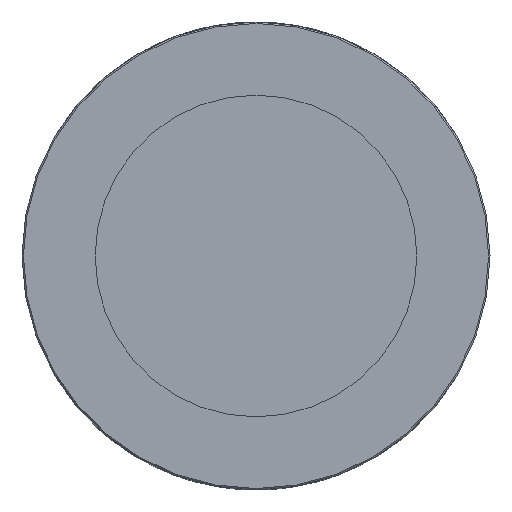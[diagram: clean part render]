
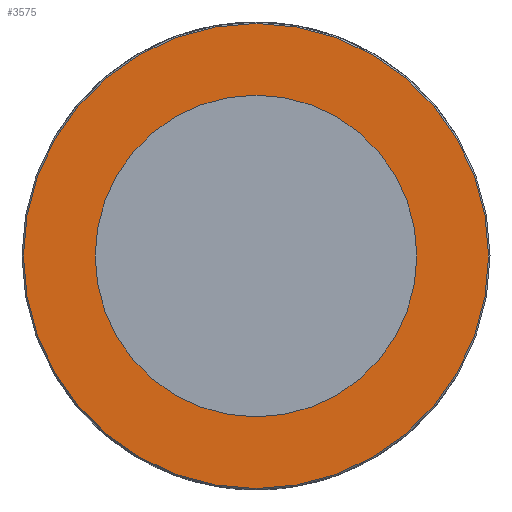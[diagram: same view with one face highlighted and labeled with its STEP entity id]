
A CAD part, left-side view. The second image highlights one B-rep face of the part: STEP entity #3575.
In plain terms, the highlighted planar face has unit normal (-1, 0, 0).
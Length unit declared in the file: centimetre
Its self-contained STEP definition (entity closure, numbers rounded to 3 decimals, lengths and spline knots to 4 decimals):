
#408=PLANE('',#3841);
#1019=CIRCLE('',#3816,5.5);
#1027=CIRCLE('',#3835,7.95);
#1153=EDGE_CURVE('',#2940,#2940,#1019,.T.);
#1176=EDGE_CURVE('',#2959,#2959,#1027,.T.);
#1704=ORIENTED_EDGE('',*,*,#1153,.T.);
#1705=ORIENTED_EDGE('',*,*,#1176,.F.);
#2636=EDGE_LOOP('',(#1704));
#2637=EDGE_LOOP('',(#1705));
#2940=VERTEX_POINT('',#4400);
#2959=VERTEX_POINT('',#4446);
#3281=FACE_BOUND('',#2636,.T.);
#3282=FACE_BOUND('',#2637,.T.);
#3575=ADVANCED_FACE('',(#3281,#3282),#408,.T.);
#3816=AXIS2_PLACEMENT_3D('',#4399,#19908,#19909);
#3835=AXIS2_PLACEMENT_3D('',#4445,#19946,#19947);
#3841=AXIS2_PLACEMENT_3D('',#4467,#19960,$);
#4399=CARTESIAN_POINT('',(0.,0.,0.));
#4400=CARTESIAN_POINT('',(0.,0.,5.5));
#4445=CARTESIAN_POINT('',(0.,0.,0.));
#4446=CARTESIAN_POINT('',(0.,0.,-7.95));
#4467=CARTESIAN_POINT('',(0.,0.,-4.));
#19908=DIRECTION('',(1.,0.,0.));
#19909=DIRECTION('',(0.,0.,5.5));
#19946=DIRECTION('',(1.,0.,0.));
#19947=DIRECTION('',(0.,0.,7.95));
#19960=DIRECTION('',(-1.,0.,0.));
